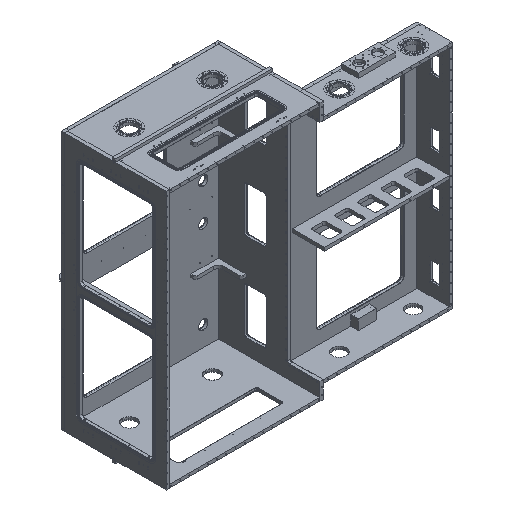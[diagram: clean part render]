
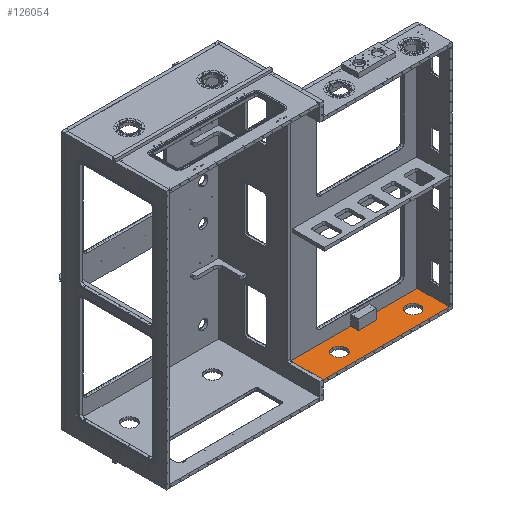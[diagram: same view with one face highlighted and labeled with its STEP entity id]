
A CAD part, isometric view. The second image highlights one B-rep face of the part: STEP entity #126054.
In plain terms, the highlighted planar face has unit normal (0, 0, 1) as drawn and (0, 1, 0) by its records, which use the part's own axes.
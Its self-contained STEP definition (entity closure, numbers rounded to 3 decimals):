
#504 = CARTESIAN_POINT ( 'NONE',  ( 450., 17.5, 0. ) ) ;
#2525 = EDGE_CURVE ( 'NONE', #109681, #111979, #80659, .T. ) ;
#2742 = CARTESIAN_POINT ( 'NONE',  ( 700., 17.5, -175. ) ) ;
#2796 = DIRECTION ( 'NONE',  ( 0., 0., -1. ) ) ;
#3401 = AXIS2_PLACEMENT_3D ( 'NONE', #123557, #14574, #93915 ) ;
#4838 = PLANE ( 'NONE',  #118832 ) ;
#5413 = EDGE_LOOP ( 'NONE', ( #82499, #53757, #59350, #61029 ) ) ;
#7989 = AXIS2_PLACEMENT_3D ( 'NONE', #94737, #106969, #67541 ) ;
#8125 = DIRECTION ( 'NONE',  ( 0., 1., 0. ) ) ;
#11082 = DIRECTION ( 'NONE',  ( 1., 0., 0. ) ) ;
#11528 = DIRECTION ( 'NONE',  ( 0., 0., -1. ) ) ;
#12517 = LINE ( 'NONE', #69913, #60193 ) ;
#14563 = DIRECTION ( 'NONE',  ( 0., 0., 1. ) ) ;
#14574 = DIRECTION ( 'NONE',  ( 0., -1., 0. ) ) ;
#16928 = EDGE_LOOP ( 'NONE', ( #46201, #37863 ) ) ;
#17208 = CARTESIAN_POINT ( 'NONE',  ( 700., 17.5, 175. ) ) ;
#17642 = VERTEX_POINT ( 'NONE', #101284 ) ;
#21285 = ORIENTED_EDGE ( 'NONE', *, *, #95427, .F. ) ;
#21389 = CARTESIAN_POINT ( 'NONE',  ( -700., 17.5, 175. ) ) ;
#22646 = VECTOR ( 'NONE', #75277, 1000. ) ;
#23496 = CARTESIAN_POINT ( 'NONE',  ( 0., 17.5, -150. ) ) ;
#24360 = CARTESIAN_POINT ( 'NONE',  ( -350., 17.5, -75. ) ) ;
#25976 = EDGE_CURVE ( 'NONE', #41138, #75873, #12517, .T. ) ;
#29188 = ORIENTED_EDGE ( 'NONE', *, *, #104374, .F. ) ;
#30224 = CIRCLE ( 'NONE', #3401, 75. ) ;
#31254 = DIRECTION ( 'NONE',  ( -1., 0., 0. ) ) ;
#37029 = VERTEX_POINT ( 'NONE', #68889 ) ;
#37863 = ORIENTED_EDGE ( 'NONE', *, *, #109411, .T. ) ;
#38227 = CARTESIAN_POINT ( 'NONE',  ( -700., 17.5, -175. ) ) ;
#38346 = DIRECTION ( 'NONE',  ( -1., 0., 0. ) ) ;
#40360 = VERTEX_POINT ( 'NONE', #55399 ) ;
#40851 = VERTEX_POINT ( 'NONE', #79881 ) ;
#41138 = VERTEX_POINT ( 'NONE', #17208 ) ;
#42918 = VERTEX_POINT ( 'NONE', #118938 ) ;
#43190 = EDGE_CURVE ( 'NONE', #111979, #109681, #72554, .T. ) ;
#43549 = DIRECTION ( 'NONE',  ( 0., 1., 0. ) ) ;
#46201 = ORIENTED_EDGE ( 'NONE', *, *, #46299, .T. ) ;
#46299 = EDGE_CURVE ( 'NONE', #103109, #37029, #30224, .T. ) ;
#47594 = ORIENTED_EDGE ( 'NONE', *, *, #89116, .F. ) ;
#48031 = VERTEX_POINT ( 'NONE', #50498 ) ;
#49139 = CIRCLE ( 'NONE', #7989, 20. ) ;
#50498 = CARTESIAN_POINT ( 'NONE',  ( 100., 17.5, -150. ) ) ;
#53129 = CIRCLE ( 'NONE', #117079, 75. ) ;
#53757 = ORIENTED_EDGE ( 'NONE', *, *, #69668, .T. ) ;
#53967 = VECTOR ( 'NONE', #38346, 1000. ) ;
#55399 = CARTESIAN_POINT ( 'NONE',  ( -700., 17.5, 175. ) ) ;
#55869 = CARTESIAN_POINT ( 'NONE',  ( -350., 17.5, 75. ) ) ;
#55924 = AXIS2_PLACEMENT_3D ( 'NONE', #58483, #73591, #97892 ) ;
#56211 = DIRECTION ( 'NONE',  ( 0., 0., -1. ) ) ;
#57148 = LINE ( 'NONE', #96556, #22646 ) ;
#58483 = CARTESIAN_POINT ( 'NONE',  ( -350., 17.5, 0. ) ) ;
#59350 = ORIENTED_EDGE ( 'NONE', *, *, #71444, .T. ) ;
#60193 = VECTOR ( 'NONE', #2796, 1000. ) ;
#61029 = ORIENTED_EDGE ( 'NONE', *, *, #81983, .T. ) ;
#62728 = CARTESIAN_POINT ( 'NONE',  ( -350., 17.5, 0. ) ) ;
#65455 = FACE_BOUND ( 'NONE', #91303, .T. ) ;
#66061 = CARTESIAN_POINT ( 'NONE',  ( 0., 17.5, 0. ) ) ;
#66845 = VECTOR ( 'NONE', #77592, 1000. ) ;
#67541 = DIRECTION ( 'NONE',  ( 0., 0., 1. ) ) ;
#68095 = AXIS2_PLACEMENT_3D ( 'NONE', #86243, #8125, #125566 ) ;
#68889 = CARTESIAN_POINT ( 'NONE',  ( 450., 17.5, 75. ) ) ;
#69668 = EDGE_CURVE ( 'NONE', #75873, #17642, #88687, .T. ) ;
#69913 = CARTESIAN_POINT ( 'NONE',  ( 700., 17.5, -175. ) ) ;
#71444 = EDGE_CURVE ( 'NONE', #17642, #40360, #126620, .T. ) ;
#72554 = CIRCLE ( 'NONE', #105576, 75. ) ;
#73591 = DIRECTION ( 'NONE',  ( 0., -1., 0. ) ) ;
#73875 = FACE_OUTER_BOUND ( 'NONE', #5413, .T. ) ;
#75277 = DIRECTION ( 'NONE',  ( 1., 0., 0. ) ) ;
#75873 = VERTEX_POINT ( 'NONE', #2742 ) ;
#77592 = DIRECTION ( 'NONE',  ( 0., 0., 1. ) ) ;
#79881 = CARTESIAN_POINT ( 'NONE',  ( 0., 17.5, -150. ) ) ;
#80113 = VECTOR ( 'NONE', #11082, 1000. ) ;
#80659 = CIRCLE ( 'NONE', #55924, 75. ) ;
#81983 = EDGE_CURVE ( 'NONE', #40360, #41138, #99460, .T. ) ;
#82499 = ORIENTED_EDGE ( 'NONE', *, *, #25976, .T. ) ;
#86243 = CARTESIAN_POINT ( 'NONE',  ( 0., 17.5, -130. ) ) ;
#88687 = LINE ( 'NONE', #108059, #53967 ) ;
#89116 = EDGE_CURVE ( 'NONE', #42918, #111868, #57148, .T. ) ;
#89586 = DIRECTION ( 'NONE',  ( 0., -1., 0. ) ) ;
#91303 = EDGE_LOOP ( 'NONE', ( #112096, #96697 ) ) ;
#91488 = CARTESIAN_POINT ( 'NONE',  ( 100., 17.5, -110. ) ) ;
#92274 = ORIENTED_EDGE ( 'NONE', *, *, #112102, .F. ) ;
#93076 = DIRECTION ( 'NONE',  ( 0., -1., 0. ) ) ;
#93915 = DIRECTION ( 'NONE',  ( 0., 0., -1. ) ) ;
#94737 = CARTESIAN_POINT ( 'NONE',  ( 100., 17.5, -130. ) ) ;
#95427 = EDGE_CURVE ( 'NONE', #111868, #48031, #49139, .T. ) ;
#96556 = CARTESIAN_POINT ( 'NONE',  ( 0., 17.5, -110. ) ) ;
#96697 = ORIENTED_EDGE ( 'NONE', *, *, #2525, .T. ) ;
#97892 = DIRECTION ( 'NONE',  ( 0., 0., -1. ) ) ;
#99107 = CIRCLE ( 'NONE', #68095, 20. ) ;
#99460 = LINE ( 'NONE', #21389, #80113 ) ;
#101284 = CARTESIAN_POINT ( 'NONE',  ( -700., 17.5, -175. ) ) ;
#101861 = VECTOR ( 'NONE', #31254, 1000. ) ;
#103109 = VERTEX_POINT ( 'NONE', #125568 ) ;
#104374 = EDGE_CURVE ( 'NONE', #48031, #40851, #111882, .T. ) ;
#105576 = AXIS2_PLACEMENT_3D ( 'NONE', #62728, #93076, #56211 ) ;
#106969 = DIRECTION ( 'NONE',  ( 0., 1., 0. ) ) ;
#107224 = EDGE_LOOP ( 'NONE', ( #92274, #29188, #21285, #47594 ) ) ;
#108059 = CARTESIAN_POINT ( 'NONE',  ( -700., 17.5, -175. ) ) ;
#109411 = EDGE_CURVE ( 'NONE', #37029, #103109, #53129, .T. ) ;
#109681 = VERTEX_POINT ( 'NONE', #55869 ) ;
#111868 = VERTEX_POINT ( 'NONE', #91488 ) ;
#111882 = LINE ( 'NONE', #23496, #101861 ) ;
#111979 = VERTEX_POINT ( 'NONE', #24360 ) ;
#112096 = ORIENTED_EDGE ( 'NONE', *, *, #43190, .T. ) ;
#112102 = EDGE_CURVE ( 'NONE', #40851, #42918, #99107, .T. ) ;
#115165 = FACE_BOUND ( 'NONE', #107224, .T. ) ;
#117079 = AXIS2_PLACEMENT_3D ( 'NONE', #504, #89586, #11528 ) ;
#118832 = AXIS2_PLACEMENT_3D ( 'NONE', #66061, #43549, #14563 ) ;
#118938 = CARTESIAN_POINT ( 'NONE',  ( 0., 17.5, -110. ) ) ;
#123557 = CARTESIAN_POINT ( 'NONE',  ( 450., 17.5, 0. ) ) ;
#124834 = FACE_BOUND ( 'NONE', #16928, .T. ) ;
#125566 = DIRECTION ( 'NONE',  ( 0., 0., 1. ) ) ;
#125568 = CARTESIAN_POINT ( 'NONE',  ( 450., 17.5, -75. ) ) ;
#126054 = ADVANCED_FACE ( 'NONE', ( #124834, #65455, #115165, #73875 ), #4838, .T. ) ;
#126620 = LINE ( 'NONE', #38227, #66845 ) ;
